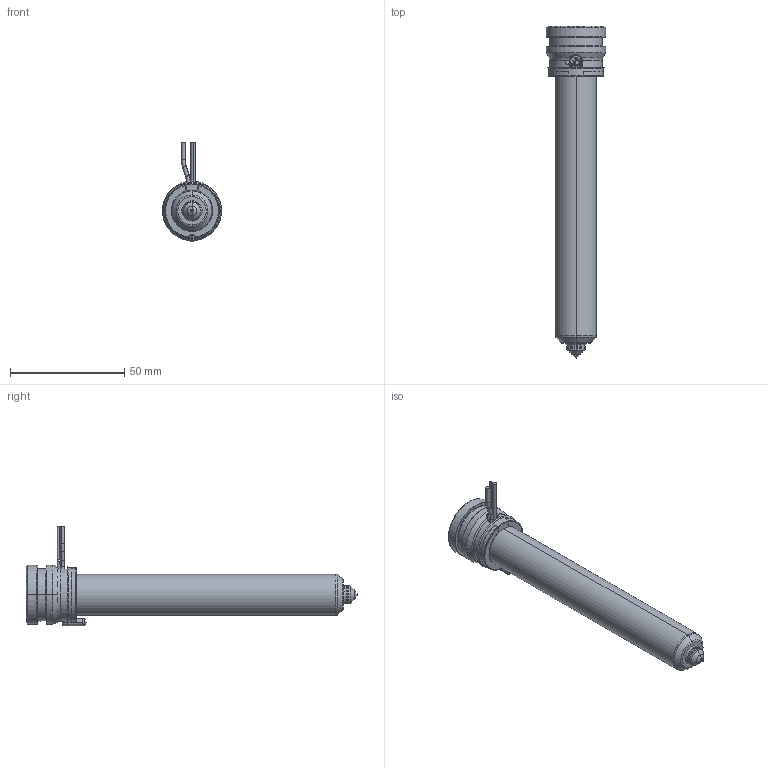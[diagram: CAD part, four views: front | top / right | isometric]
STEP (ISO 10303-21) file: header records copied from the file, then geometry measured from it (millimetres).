
FILE_DESCRIPTION((''),'2;1');
FILE_NAME('MPN-08-24-VX8-126-A','2026-02-05T12:00:10',('UPTIO'),('Thermoplay S.p.A.'),'CREO PARAMETRIC BY PTC INC, 2023494','CREO PARAMETRIC BY PTC INC, 2023494','');
FILE_SCHEMA(('CONFIG_CONTROL_DESIGN','SHAPE_APPEARANCE_LAYERS_GROUPS'));
Length unit declared in the file: millimetre
Products named in the file (1): MPN-08-24-VX8-126-A
Bounding box: 26 x 145.5 x 43.5 mm (x, y, z)
Volume: 27767.7 mm3; surface area: 35759.5 mm2
Topology: 2 solids, 3 shells, 545 faces, 1438 edges, 891 vertices
Faces by surface type: cylinder 180, plane 143, bspline 82, cone 62, torus 62, sphere 10, extrusion 6
Entity records: 29297 total; most frequent: CARTESIAN_POINT 13058, ORIENTED_EDGE 2860, DIRECTION 2578, EDGE_CURVE 1430, AXIS2_PLACEMENT_3D 1007, VERTEX_POINT 891, EDGE_LOOP 573, VECTOR 564
